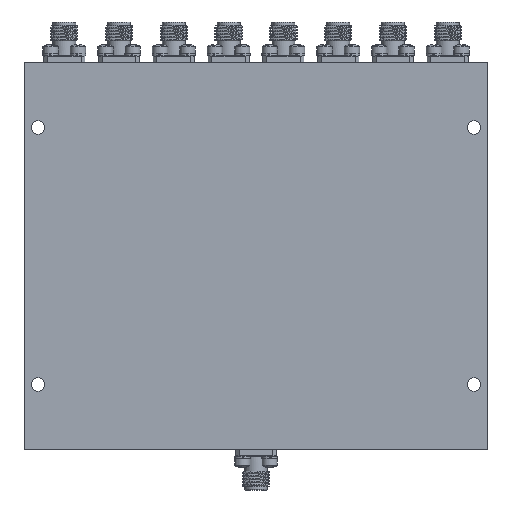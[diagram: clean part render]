
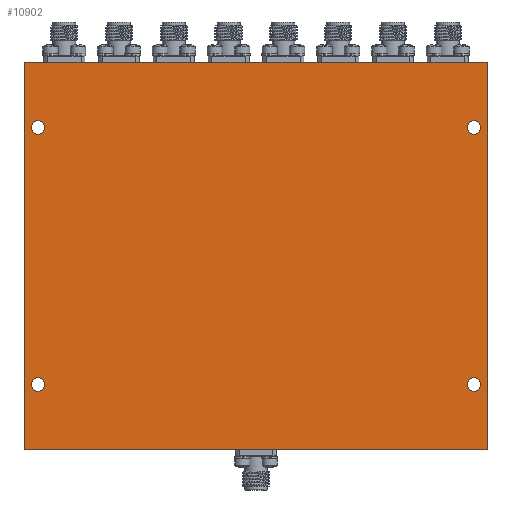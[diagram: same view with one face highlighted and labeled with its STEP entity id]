
A CAD part, front view. The second image highlights one B-rep face of the part: STEP entity #10902.
In plain terms, the highlighted planar face has unit normal (0, -1, 0).
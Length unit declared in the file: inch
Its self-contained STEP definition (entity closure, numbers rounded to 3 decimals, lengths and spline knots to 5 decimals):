
#192 = AXIS2_PLACEMENT_3D ( 'NONE', #12417, #14591, #46268 ) ;
#1305 = LINE ( 'NONE', #33564, #9071 ) ;
#1402 = DIRECTION ( 'NONE',  ( 0., 0., 1. ) ) ;
#3818 = CARTESIAN_POINT ( 'NONE',  ( 41.38511, 38.90922, 38.43536 ) ) ;
#4570 = FACE_BOUND ( 'NONE', #28322, .T. ) ;
#4912 = VERTEX_POINT ( 'NONE', #54927 ) ;
#5670 = FACE_BOUND ( 'NONE', #98583, .T. ) ;
#5711 = EDGE_LOOP ( 'NONE', ( #76202 ) ) ;
#5720 = DIRECTION ( 'NONE',  ( 0., 0., 1. ) ) ;
#6771 = VERTEX_POINT ( 'NONE', #28193 ) ;
#9071 = VECTOR ( 'NONE', #94685, 39.37008 ) ;
#9694 = ORIENTED_EDGE ( 'NONE', *, *, #93830, .T. ) ;
#10902 = ADVANCED_FACE ( 'NONE', ( #56776, #5670, #64044, #4570, #22411 ), #37956, .F. ) ;
#11473 = CIRCLE ( 'NONE', #73486, 0.0625 ) ;
#12417 = CARTESIAN_POINT ( 'NONE',  ( 39.39511, 38.90922, 39.60886 ) ) ;
#12860 = AXIS2_PLACEMENT_3D ( 'NONE', #54635, #69748, #20833 ) ;
#14591 = DIRECTION ( 'NONE',  ( 0., 1., 0. ) ) ;
#15229 = ORIENTED_EDGE ( 'NONE', *, *, #102033, .F. ) ;
#16068 = EDGE_CURVE ( 'NONE', #84399, #6771, #69218, .T. ) ;
#20833 = DIRECTION ( 'NONE',  ( 0., 0., 1. ) ) ;
#21153 = LINE ( 'NONE', #54956, #40454 ) ;
#21845 = CARTESIAN_POINT ( 'NONE',  ( 37.28011, 38.90922, 37.84486 ) ) ;
#22044 = CARTESIAN_POINT ( 'NONE',  ( 41.51011, 38.90922, 37.84486 ) ) ;
#22411 = FACE_OUTER_BOUND ( 'NONE', #65798, .T. ) ;
#22451 = DIRECTION ( 'NONE',  ( 0., 1., 0. ) ) ;
#23223 = CARTESIAN_POINT ( 'NONE',  ( 37.40511, 38.90922, 38.43536 ) ) ;
#28193 = CARTESIAN_POINT ( 'NONE',  ( 37.28011, 38.90922, 41.37286 ) ) ;
#28322 = EDGE_LOOP ( 'NONE', ( #9694 ) ) ;
#28469 = ORIENTED_EDGE ( 'NONE', *, *, #97750, .F. ) ;
#30428 = VERTEX_POINT ( 'NONE', #22044 ) ;
#33564 = CARTESIAN_POINT ( 'NONE',  ( 37.28011, 38.90922, 41.37286 ) ) ;
#33701 = DIRECTION ( 'NONE',  ( 0., 0., 1. ) ) ;
#35058 = EDGE_LOOP ( 'NONE', ( #96260 ) ) ;
#37956 = PLANE ( 'NONE',  #192 ) ;
#38271 = DIRECTION ( 'NONE',  ( 0., 0., 1. ) ) ;
#39894 = DIRECTION ( 'NONE',  ( 0., 1., 0. ) ) ;
#40454 = VECTOR ( 'NONE', #88881, 39.37008 ) ;
#41211 = CIRCLE ( 'NONE', #60800, 0.0625 ) ;
#42222 = ORIENTED_EDGE ( 'NONE', *, *, #16068, .F. ) ;
#44375 = VECTOR ( 'NONE', #1402, 39.37008 ) ;
#46268 = DIRECTION ( 'NONE',  ( 0., 0., 1. ) ) ;
#50723 = AXIS2_PLACEMENT_3D ( 'NONE', #98519, #22451, #5720 ) ;
#53218 = EDGE_CURVE ( 'NONE', #81325, #81325, #41211, .T. ) ;
#54635 = CARTESIAN_POINT ( 'NONE',  ( 37.40511, 38.90922, 40.78236 ) ) ;
#54927 = CARTESIAN_POINT ( 'NONE',  ( 41.38511, 38.90922, 40.84486 ) ) ;
#54956 = CARTESIAN_POINT ( 'NONE',  ( 41.51011, 38.90922, 37.84486 ) ) ;
#56282 = CARTESIAN_POINT ( 'NONE',  ( 41.38511, 38.90922, 38.49786 ) ) ;
#56776 = FACE_BOUND ( 'NONE', #5711, .T. ) ;
#58176 = DIRECTION ( 'NONE',  ( 0., 1., 0. ) ) ;
#59494 = VERTEX_POINT ( 'NONE', #68937 ) ;
#60751 = ORIENTED_EDGE ( 'NONE', *, *, #97152, .F. ) ;
#60800 = AXIS2_PLACEMENT_3D ( 'NONE', #3818, #39894, #38271 ) ;
#60804 = CIRCLE ( 'NONE', #12860, 0.0625 ) ;
#64044 = FACE_BOUND ( 'NONE', #35058, .T. ) ;
#65798 = EDGE_LOOP ( 'NONE', ( #42222, #28469, #60751, #15229 ) ) ;
#68937 = CARTESIAN_POINT ( 'NONE',  ( 37.40511, 38.90922, 40.84486 ) ) ;
#69218 = LINE ( 'NONE', #76972, #44375 ) ;
#69748 = DIRECTION ( 'NONE',  ( 0., 1., 0. ) ) ;
#72874 = DIRECTION ( 'NONE',  ( -1., 0., 0. ) ) ;
#73486 = AXIS2_PLACEMENT_3D ( 'NONE', #23223, #58176, #33701 ) ;
#76202 = ORIENTED_EDGE ( 'NONE', *, *, #85063, .T. ) ;
#76972 = CARTESIAN_POINT ( 'NONE',  ( 37.28011, 38.90922, 37.84486 ) ) ;
#81136 = CIRCLE ( 'NONE', #50723, 0.0625 ) ;
#81325 = VERTEX_POINT ( 'NONE', #56282 ) ;
#82403 = ORIENTED_EDGE ( 'NONE', *, *, #88554, .T. ) ;
#83116 = VECTOR ( 'NONE', #72874, 39.37008 ) ;
#84399 = VERTEX_POINT ( 'NONE', #103491 ) ;
#85063 = EDGE_CURVE ( 'NONE', #59494, #59494, #60804, .T. ) ;
#88554 = EDGE_CURVE ( 'NONE', #4912, #4912, #81136, .T. ) ;
#88881 = DIRECTION ( 'NONE',  ( 0., 0., -1. ) ) ;
#91562 = CARTESIAN_POINT ( 'NONE',  ( 37.40511, 38.90922, 38.49786 ) ) ;
#93830 = EDGE_CURVE ( 'NONE', #99913, #99913, #11473, .T. ) ;
#94685 = DIRECTION ( 'NONE',  ( 1., 0., 0. ) ) ;
#96260 = ORIENTED_EDGE ( 'NONE', *, *, #53218, .T. ) ;
#97152 = EDGE_CURVE ( 'NONE', #100436, #30428, #21153, .T. ) ;
#97750 = EDGE_CURVE ( 'NONE', #30428, #84399, #106794, .T. ) ;
#98519 = CARTESIAN_POINT ( 'NONE',  ( 41.38511, 38.90922, 40.78236 ) ) ;
#98583 = EDGE_LOOP ( 'NONE', ( #82403 ) ) ;
#99911 = CARTESIAN_POINT ( 'NONE',  ( 41.51011, 38.90922, 41.37286 ) ) ;
#99913 = VERTEX_POINT ( 'NONE', #91562 ) ;
#100436 = VERTEX_POINT ( 'NONE', #99911 ) ;
#102033 = EDGE_CURVE ( 'NONE', #6771, #100436, #1305, .T. ) ;
#103491 = CARTESIAN_POINT ( 'NONE',  ( 37.28011, 38.90922, 37.84486 ) ) ;
#106794 = LINE ( 'NONE', #21845, #83116 ) ;
